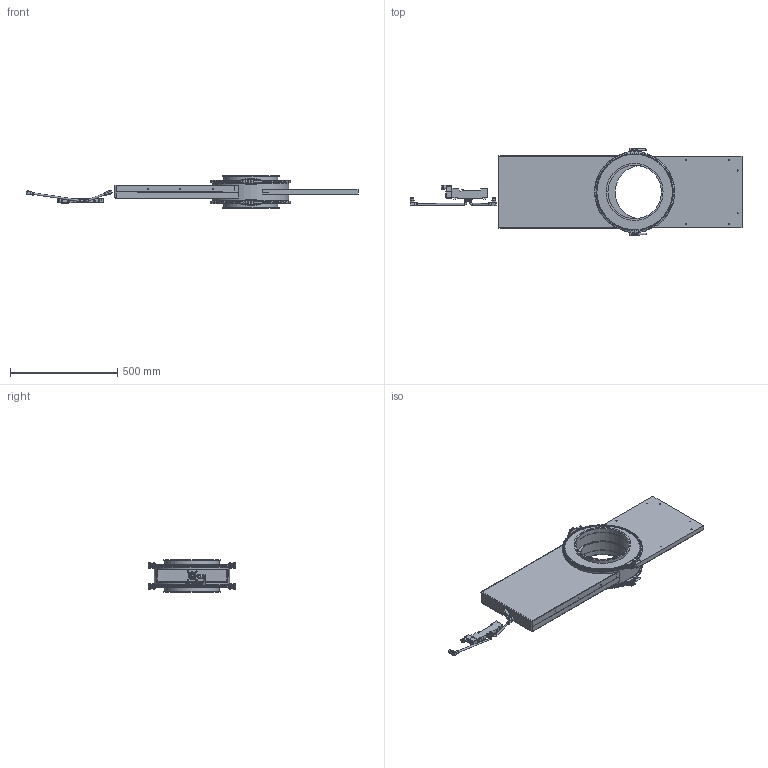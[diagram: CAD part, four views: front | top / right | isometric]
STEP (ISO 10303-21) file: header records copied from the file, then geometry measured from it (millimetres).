
FILE_DESCRIPTION((''),'2;1');
FILE_NAME('U:\Wolfgang\Marcel-3D\fertig\Kapitel 9\2521093.stp','2011-10-11T13:05:45',('iwienholt'),(''),'Autodesk Inventor 2010','Autodesk Inventor 2010','');
FILE_SCHEMA(('AUTOMOTIVE_DESIGN { 1 0 10303 214 1 1 1 1 }'));
Length unit declared in the file: millimetre
Products named in the file (23): 2521093; Einheit DN250; 3522055; 3522055-1; Verschluss b=374; Verschlussrolle; VerschlussrolleGewinde; ISO 4762 M8 x 70; 3522055-Dichtmasse; P.Schibereinheit DN250; 532759_DNCB_50_320_PPV_A_6_0; 537600_VUVB_S_B42_ZD_Q8_3AC1_6_0; 537600_VUVB_S_B42_ZD_Q8_3AC1_6_01; 537600_VUVB_S_B42_ZD_Q8_3AC1_6_02; 537600_VUVB_S_B42_ZD_Q8_3AC1_6_03; 4527_MSFG_24_42_50_60_6_0; 4527_MSFG_24_42_50_60_6_01; 4527_MSFG_24_42_50_60_6_02; 153414_QSRL_1_4_8_6_0; schlauch4; schlauch; 13570_CRSG_M12x125_6_0; P.Schieber DN250
Assembly tree (30 placements, depth 4):
  2521093
    Einheit DN250
    3522055  x2
      3522055-1
      Verschluss b=374
      Verschlussrolle
      VerschlussrolleGewinde
      ISO 4762 M8 x 70
      3522055-Dichtmasse
    P.Schibereinheit DN250
      537600_VUVB_S_B42_ZD_Q8_3AC1_6_0
        537600_VUVB_S_B42_ZD_Q8_3AC1_6_01
        537600_VUVB_S_B42_ZD_Q8_3AC1_6_02
        537600_VUVB_S_B42_ZD_Q8_3AC1_6_03
      4527_MSFG_24_42_50_60_6_0
        4527_MSFG_24_42_50_60_6_01
        4527_MSFG_24_42_50_60_6_02
      153414_QSRL_1_4_8_6_0  x2
      schlauch4
      schlauch
      13570_CRSG_M12x125_6_0
      P.Schieber DN250
  532759_DNCB_50_320_PPV_A_6_0
Bounding box: 1546.74 x 408 x 150 mm (x, y, z)
Volume: 5758259.7 mm3; surface area: 2474446.6 mm2
Topology: 38 solids, 38 shells, 1421 faces, 3602 edges, 2354 vertices
Faces by surface type: plane 542, cylinder 435, cone 204, bspline 198, torus 42
Full cylindrical faces by diameter (mm): 1 x3, 2.459 x1, 3 x2, 3.5 x1, 4 x1, 4.5 x1, 5 x21, 5.471 x2, 5.5 x1, 6 x13, 7.188 x1, 8 x29, 8.05 x1, 9 x1, 9.6 x2, 10.15 x2, 11.2 x2, 12 x11, 13 x4, 13.05 x2, 14 x6, 14.4 x4, 14.5 x2, 14.7 x6, 15.1 x2, 15.2 x1, 15.5 x1, 15.7 x1, 16 x1, 17 x2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
Entity records: 21702 total; most frequent: CARTESIAN_POINT 5481, DIRECTION 3328, ORIENTED_EDGE 2914, EDGE_CURVE 1457, AXIS2_PLACEMENT_3D 1295, VERTEX_POINT 1036, EDGE_LOOP 993, VECTOR 738
